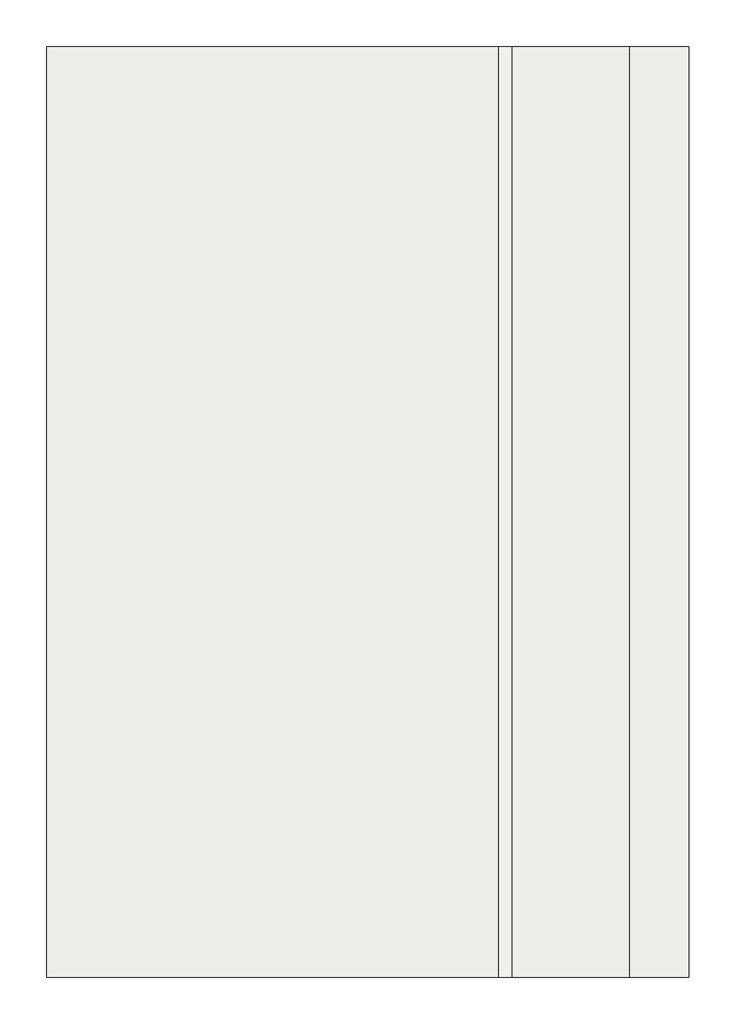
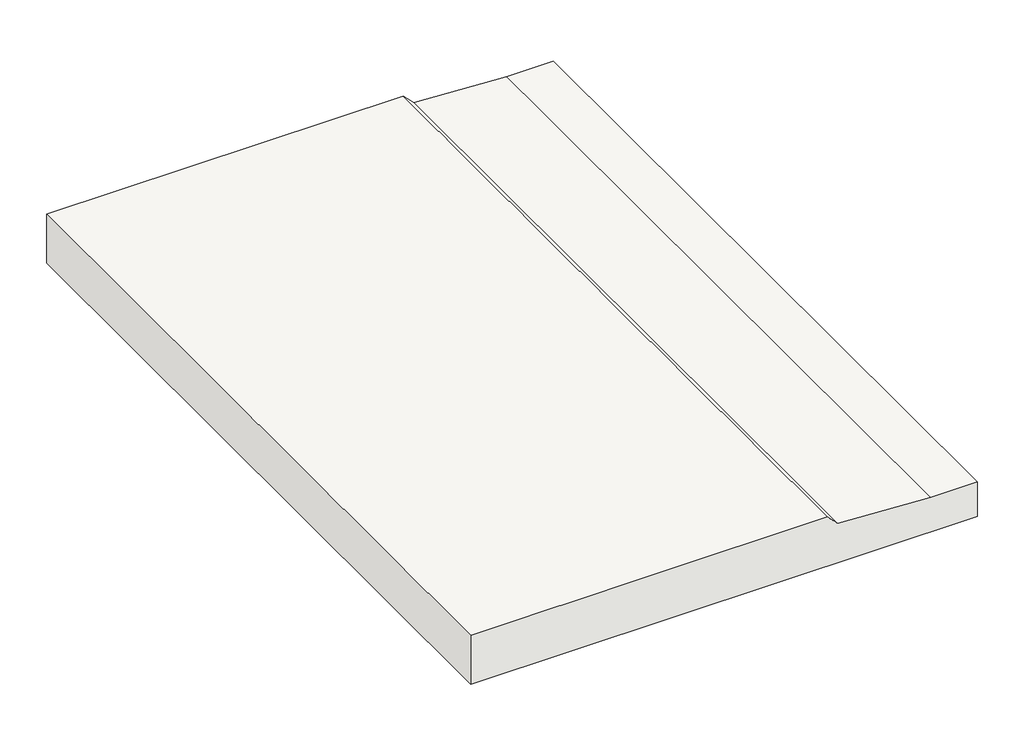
# One storey: 1 slab.
"""IFC4 building model written with IfcOpenShell, lengths in millimetres."""

from ifc_helpers import new_model, si_unit, origin, place, context, project, spatial, transform, mapped, element, save
from components import slab_2753d4e6

model = new_model("IFC4")

# Units and contexts
model_context = context("Model", 3, world=origin())
ifc_project = project(units=[si_unit("LENGTHUNIT", "METRE", prefix="MILLI")], contexts=[model_context])

# Site, building, storey
site = spatial("IfcSite", under=ifc_project)
building = spatial("IfcBuilding", under=site)
storey = spatial("IfcBuildingStorey", under=building, Name="L3人行版", Elevation=2100.0)

# Slab
placement = place(None, origin())
slab_shape = slab_2753d4e6(model_context)
element("IfcSlab", 1, ObjectType="楼板 - 滲漏室 : 楼板 - 滲漏室", at=placement, inside=storey, context=model_context, shape_type="MappedRepresentation", body=[
    mapped(slab_shape, transform((0.0, 0.0, 0.0), x_axis=(1.0, 0.0, 0.0), y_axis=(0.0, 1.0, 0.0), z_axis=(0.0, 0.0, 1.0))),
])

save(model, "model.ifc")
